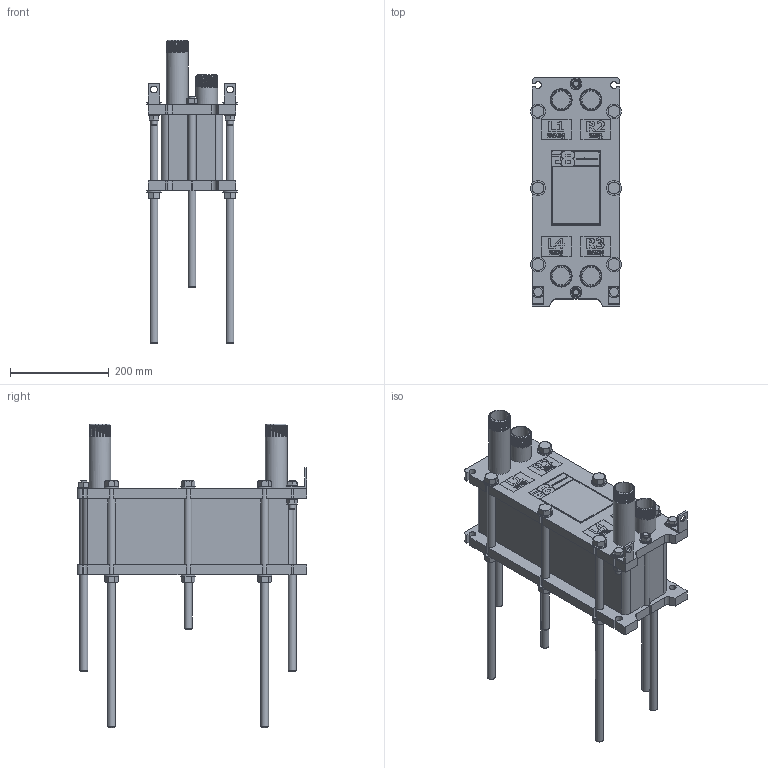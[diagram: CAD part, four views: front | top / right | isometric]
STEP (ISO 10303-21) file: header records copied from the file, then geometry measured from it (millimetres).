
FILE_DESCRIPTION (( 'STEP AP214' ), '1' );
FILE_NAME ('ÏÒ S32 ðåä 4 ñèãìà 81...130.STEP', '2021-04-18T08:57:56', ( '' ), ( '' ), 'SwSTEP 2.0', 'SolidWorks 2018', '' );
FILE_SCHEMA (( 'AUTOMOTIVE_DESIGN' ));
Length unit declared in the file: millimetre
Products named in the file (3): ÏÒ S32 ðåä 4 ñèãìà 81...130; ÏÒ S32 ðåä 4 ñèãìà1; ÏÒ S32 ðåä 4 ñèãìà 2 81...130
Assembly tree (2 placements, depth 2):
  ÏÒ S32 ðåä 4 ñèãìà 81...130
    ÏÒ S32 ðåä 4 ñèãìà 2 81...130
    ÏÒ S32 ðåä 4 ñèãìà1
Bounding box: 183.89 x 465 x 615 mm (x, y, z)
Volume: 10351414.3 mm3; surface area: 1024299.6 mm2
Topology: 13 solids, 13 shells, 1513 faces, 3780 edges, 2442 vertices
Faces by surface type: plane 806, bspline 283, cone 244, cylinder 178, torus 2
Full cylindrical faces by diameter (mm): 12 x8, 13 x8, 14 x4, 16 x14, 17 x12, 24 x6, 30 x12, 36 x4, 44 x44
Entity records: 93792 total; most frequent: CARTESIAN_POINT 45845, ORIENTED_EDGE 7024, DIRECTION 5424, EDGE_CURVE 3512, VERTEX_POINT 2332, LINE 2010, VECTOR 2010, EDGE_LOOP 1756
